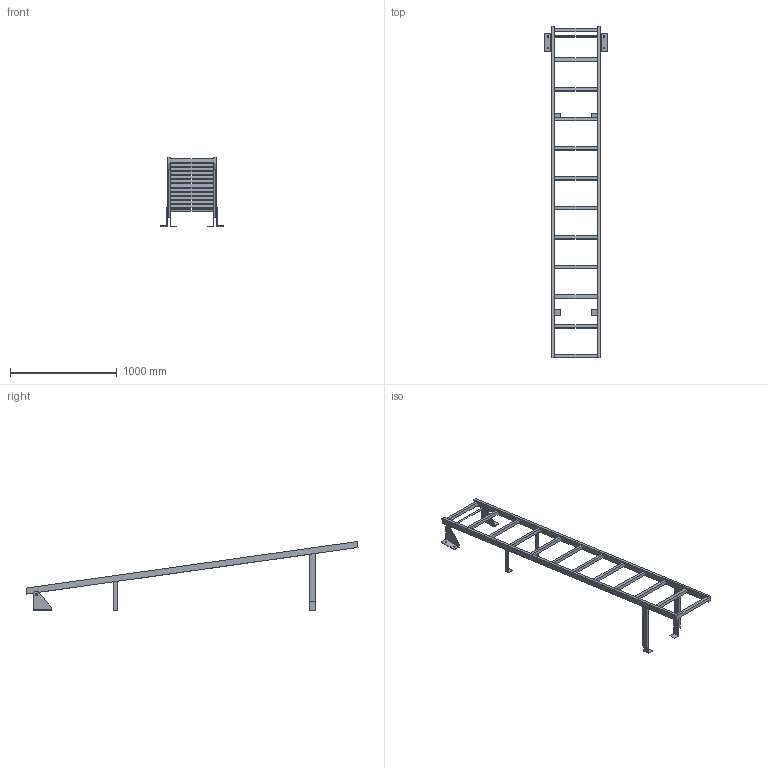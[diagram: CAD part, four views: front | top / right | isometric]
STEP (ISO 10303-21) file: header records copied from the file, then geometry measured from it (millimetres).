
FILE_DESCRIPTION((''),'2;1');
FILE_NAME('52307386','2024-10-16T12:00:13',('wep'),('HUBER SE'),'CREO PARAMETRIC BY PTC INC, 2022162','CREO PARAMETRIC BY PTC INC, 2022162','');
FILE_SCHEMA(('AUTOMOTIVE_DESIGN { 1 0 10303 214 1 1 1 1 }'));
Length unit declared in the file: millimetre
Products named in the file (1): 52307386
Bounding box: 590 x 3107.47 x 646.3 mm (x, y, z)
Volume: 14972919.9 mm3; surface area: 1989326 mm2
Topology: 6 solids, 6 shells, 134 faces, 362 edges, 240 vertices
Faces by surface type: plane 118, cylinder 16
Entity records: 4773 total; most frequent: CARTESIAN_POINT 738, ORIENTED_EDGE 724, DIRECTION 662, EDGE_CURVE 362, VECTOR 330, LINE 330, VERTEX_POINT 240, EDGE_LOOP 168
